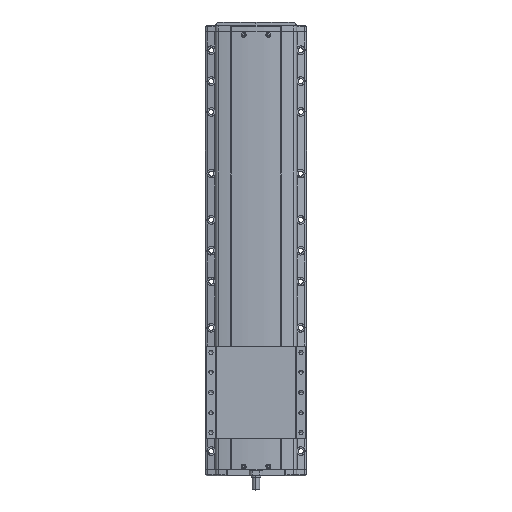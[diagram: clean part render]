
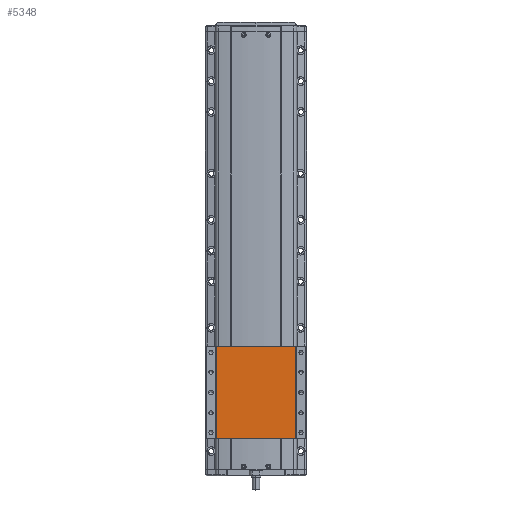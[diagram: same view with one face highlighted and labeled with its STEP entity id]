
A CAD part, top view. The second image highlights one B-rep face of the part: STEP entity #5348.
In plain terms, the highlighted planar face has unit normal (0, 0, 1).
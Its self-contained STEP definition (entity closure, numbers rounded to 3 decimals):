
#5348=ADVANCED_FACE('',(#11018),#11019,.F.);
#11018=FACE_OUTER_BOUND('',#18644,.T.);
#11019=PLANE('',#18645);
#18644=EDGE_LOOP('',(#35309,#35310,#35311,#35312));
#18645=AXIS2_PLACEMENT_3D('',#35313,#35314,#35315);
#35309=ORIENTED_EDGE('',*,*,#40087,.F.);
#35310=ORIENTED_EDGE('',*,*,#43865,.F.);
#35311=ORIENTED_EDGE('',*,*,#41860,.F.);
#35312=ORIENTED_EDGE('',*,*,#43637,.T.);
#35313=CARTESIAN_POINT('',(-600.,147.222,51.5));
#35314=DIRECTION('',(0.,0.,-1.0));
#35315=DIRECTION('',(-1.0,0.,0.));
#40087=EDGE_CURVE('',#48797,#48799,#48800,.T.);
#41860=EDGE_CURVE('',#51477,#51479,#51480,.T.);
#43637=EDGE_CURVE('',#51477,#48799,#53770,.T.);
#43865=EDGE_CURVE('',#51479,#48797,#54029,.T.);
#48797=VERTEX_POINT('',#61090);
#48799=VERTEX_POINT('',#61092);
#48800=LINE('',#61093,#61094);
#51477=VERTEX_POINT('',#65173);
#51479=VERTEX_POINT('',#65175);
#51480=LINE('',#65176,#65177);
#53770=LINE('',#68762,#68763);
#54029=LINE('',#69135,#69136);
#61090=CARTESIAN_POINT('',(-664.376,297.222,51.5));
#61092=CARTESIAN_POINT('',(-535.624,297.222,51.5));
#61093=CARTESIAN_POINT('',(-535.624,297.222,51.5));
#61094=VECTOR('',#73255,10.0);
#65173=CARTESIAN_POINT('',(-535.624,147.222,51.5));
#65175=CARTESIAN_POINT('',(-664.376,147.222,51.5));
#65176=CARTESIAN_POINT('',(-535.624,147.222,51.5));
#65177=VECTOR('',#75314,10.0);
#68762=CARTESIAN_POINT('',(-535.624,147.222,51.5));
#68763=VECTOR('',#77276,10.0);
#69135=CARTESIAN_POINT('',(-664.376,147.222,51.5));
#69136=VECTOR('',#77447,10.0);
#73255=DIRECTION('',(1.0,0.,0.));
#75314=DIRECTION('',(-1.0,0.,0.));
#77276=DIRECTION('',(0.,1.0,0.));
#77447=DIRECTION('',(0.,1.0,0.));
